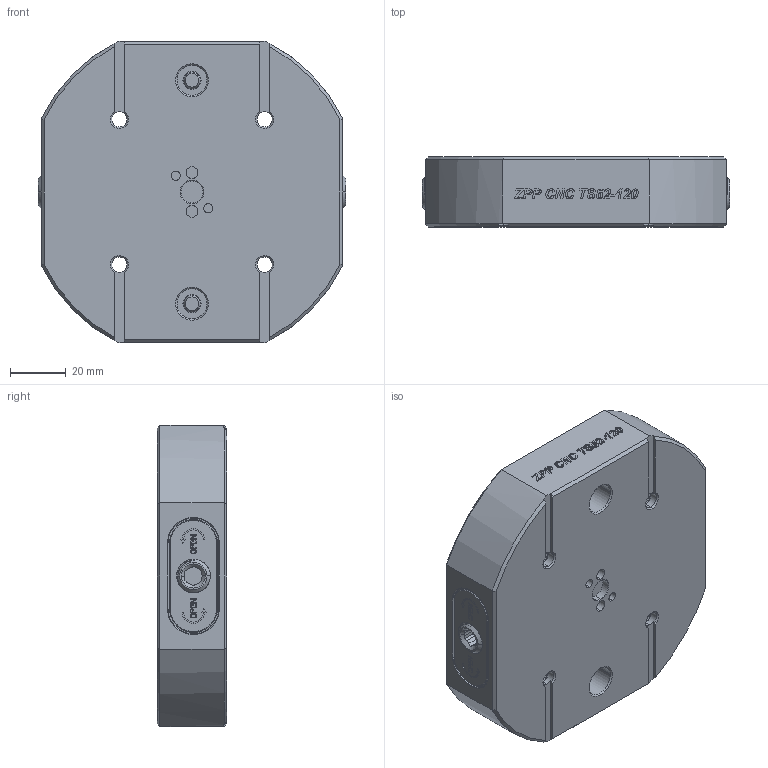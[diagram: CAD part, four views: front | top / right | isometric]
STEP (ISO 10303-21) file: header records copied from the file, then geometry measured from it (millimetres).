
FILE_DESCRIPTION((''),'2;1');
FILE_NAME('TS52-120_SS','2023-11-22T16:15:29',('XF'),(''),'CREO PARAMETRIC BY PTC INC, 2022073','CREO PARAMETRIC BY PTC INC, 2022073','');
FILE_SCHEMA(('CONFIG_CONTROL_DESIGN'));
Length unit declared in the file: millimetre
Products named in the file (1): TS52-120_SS
Bounding box: 110 x 25 x 108 mm (x, y, z)
Volume: 235041.9 mm3; surface area: 39765.3 mm2
Topology: 3 solids, 3 shells, 2569 faces, 6444 edges, 4168 vertices
Faces by surface type: plane 1231, cone 632, extrusion 502, cylinder 162, torus 24, bspline 18
Entity records: 80242 total; most frequent: CARTESIAN_POINT 19809, ORIENTED_EDGE 12888, DIRECTION 11196, EDGE_CURVE 6444, VECTOR 4538, VERTEX_POINT 4168, LINE 4036, AXIS2_PLACEMENT_3D 3329
